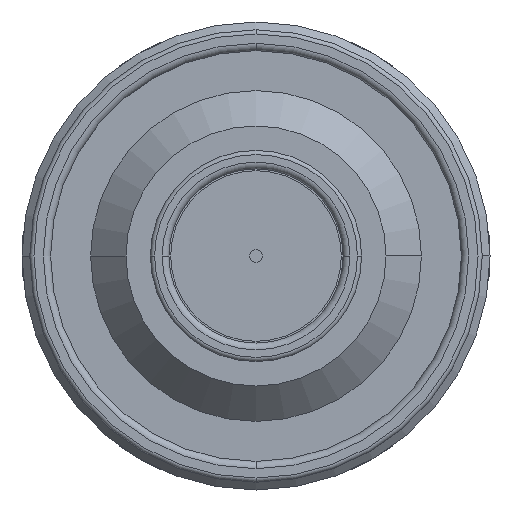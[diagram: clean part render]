
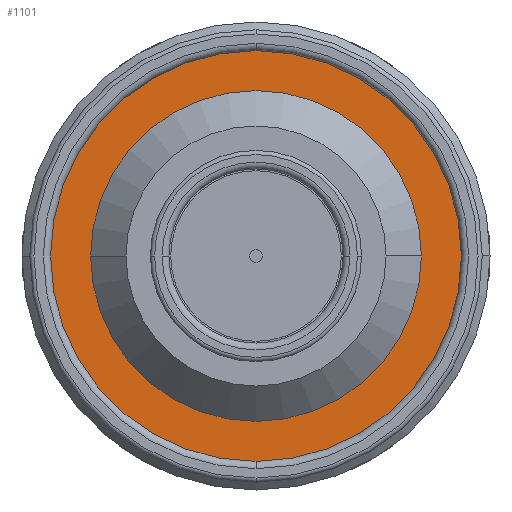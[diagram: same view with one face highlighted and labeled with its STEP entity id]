
A CAD part, front view. The second image highlights one B-rep face of the part: STEP entity #1101.
In plain terms, the highlighted planar face has unit normal (0, -1, 0).
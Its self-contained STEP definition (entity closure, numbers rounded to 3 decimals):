
#685=PLANE('',#2855);
#722=FACE_BOUND('',#1375,.T.);
#723=FACE_BOUND('',#1376,.T.);
#1101=ADVANCED_FACE('',(#722,#723),#685,.F.);
#1375=EDGE_LOOP('',(#1669,#1670));
#1376=EDGE_LOOP('',(#1671,#1672));
#1669=ORIENTED_EDGE('',*,*,#2339,.F.);
#1670=ORIENTED_EDGE('',*,*,#2422,.F.);
#1671=ORIENTED_EDGE('',*,*,#2337,.T.);
#1672=ORIENTED_EDGE('',*,*,#2424,.T.);
#2141=VERTEX_POINT('',#3900);
#2142=VERTEX_POINT('',#3902);
#2143=VERTEX_POINT('',#3906);
#2144=VERTEX_POINT('',#3907);
#2337=EDGE_CURVE('',#2142,#2141,#2619,.T.);
#2339=EDGE_CURVE('',#2143,#2144,#2620,.T.);
#2422=EDGE_CURVE('',#2144,#2143,#2647,.T.);
#2424=EDGE_CURVE('',#2141,#2142,#2649,.T.);
#2619=CIRCLE('',#2803,15.9);
#2620=CIRCLE('',#2805,21.6);
#2647=CIRCLE('',#2851,21.6);
#2649=CIRCLE('',#2854,15.9);
#2803=AXIS2_PLACEMENT_3D('',#3901,#3180,#3181);
#2805=AXIS2_PLACEMENT_3D('',#3905,#3185,#3186);
#2851=AXIS2_PLACEMENT_3D('',#4136,#3309,#3310);
#2854=AXIS2_PLACEMENT_3D('',#4139,#3315,#3316);
#2855=AXIS2_PLACEMENT_3D('',#4140,#3317,#3318);
#3180=DIRECTION('',(0.,1.,0.));
#3181=DIRECTION('',(-1.,0.,0.));
#3185=DIRECTION('',(0.,1.,0.));
#3186=DIRECTION('',(-1.,0.,0.));
#3309=DIRECTION('',(0.,1.,0.));
#3310=DIRECTION('',(-1.,0.,0.));
#3315=DIRECTION('',(0.,1.,0.));
#3316=DIRECTION('',(-1.,0.,0.));
#3317=DIRECTION('',(0.,1.,0.));
#3318=DIRECTION('',(-1.,0.,0.));
#3900=CARTESIAN_POINT('',(15.9,-69.6,0.));
#3901=CARTESIAN_POINT('',(0.,-69.6,0.));
#3902=CARTESIAN_POINT('',(-15.9,-69.6,0.));
#3905=CARTESIAN_POINT('',(0.,-69.6,0.));
#3906=CARTESIAN_POINT('',(-21.6,-69.6,0.));
#3907=CARTESIAN_POINT('',(21.6,-69.6,0.));
#4136=CARTESIAN_POINT('',(0.,-69.6,0.));
#4139=CARTESIAN_POINT('',(0.,-69.6,0.));
#4140=CARTESIAN_POINT('',(15.9,-69.6,0.));
